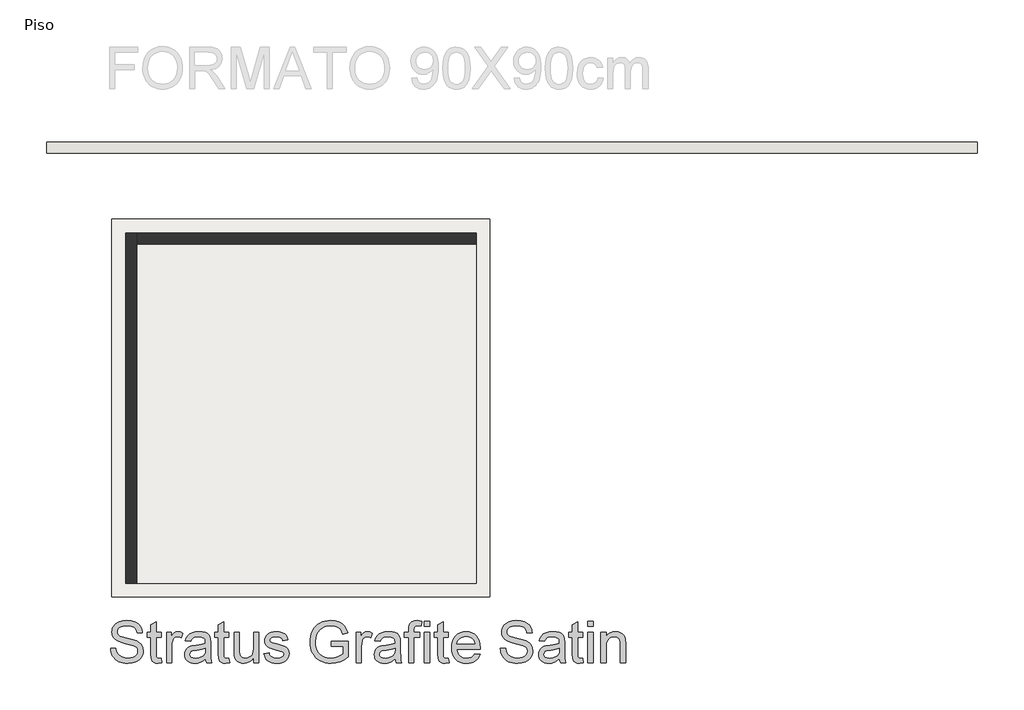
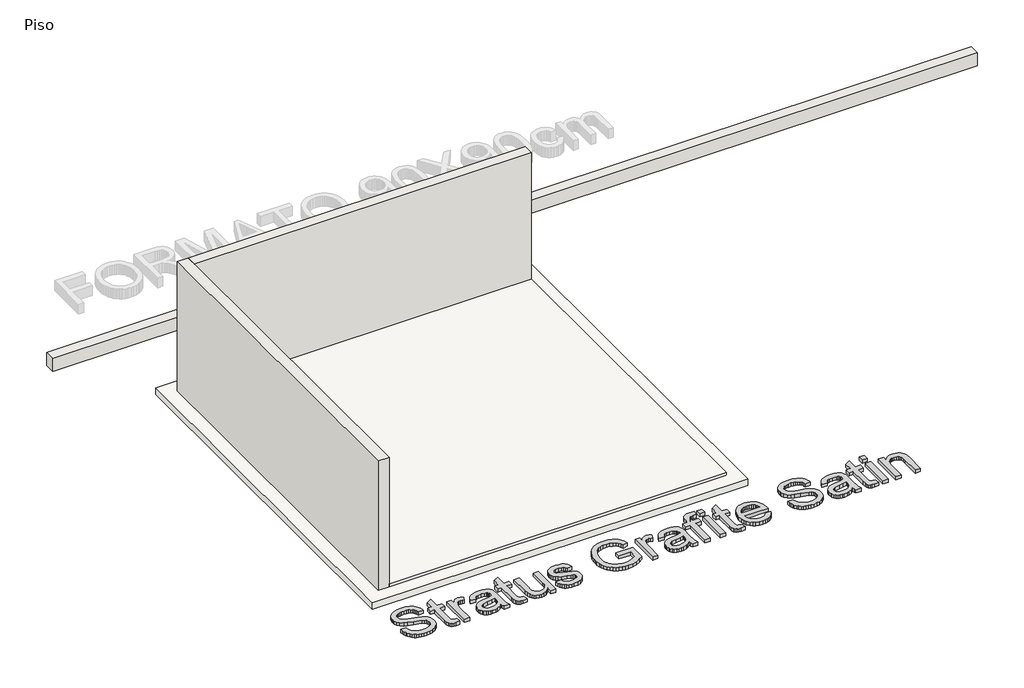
# One storey, part 1 of 2: 3 walls, 2 slabs, 1 proxy.
"""IFC4 building model written with IfcOpenShell, lengths in millimetres."""

import ifcopenshell
import ifcopenshell.guid

model = None  # the IFC model being written
_history = None  # IfcOwnerHistory: only IFC2X3 demands one
_inside = {}  # id of a spatial element -> (the spatial element, [elements in it])
_under = {}  # id of a project, library or spatial element -> (it, [spatial elements below it])
_declared = {}  # id of a project -> (the project, [libraries it declares])
_typed = {}  # id of a type object -> (the type object, [elements of that type])
_made_of = {}  # id of a material, layer set ... -> (it, [elements and type objects made of it])


def new_model(schema):
    """Start an empty IFC model of exactly this schema.

    Asked for "IFC4X3", IfcOpenShell would pick the latest addendum, in which some entities
    have other attributes; the version numbers below select the first issue.
    IFC2X3 requires an IfcOwnerHistory on every rooted entity: one is made here for all.
    """
    global model, _history
    if schema == "IFC4X3":
        model = ifcopenshell.file(schema_version=(4, 3, 0, 0))
    else:
        model = ifcopenshell.file(schema=schema)
    _inside.clear()
    _under.clear()
    _declared.clear()
    _typed.clear()
    _made_of.clear()
    _history = None
    if model.schema == "IFC2X3":
        org = make("IfcOrganization", Name="unknown")
        user = make(
            "IfcPersonAndOrganization",
            ThePerson=make("IfcPerson", FamilyName="unknown"),
            TheOrganization=org,
        )
        app = make(
            "IfcApplication",
            ApplicationDeveloper=org,
            Version="unknown",
            ApplicationFullName="unknown",
            ApplicationIdentifier="unknown",
        )
        _history = make(
            "IfcOwnerHistory",
            OwningUser=user,
            OwningApplication=app,
            ChangeAction="ADDED",
            CreationDate=0,
        )
    return model


def make(cls, **values):
    """One entity of the class cls with the attributes given. An attribute that is None is left unset."""
    return model.create_entity(
        cls, **{name: value for name, value in values.items() if value is not None}
    )


def rooted(cls, **values):
    """An entity with a GlobalId (a new one), such as an element, a storey or a relation."""
    return make(cls, GlobalId=ifcopenshell.guid.new(), OwnerHistory=_history, **values)


def si_unit(unit_type, name, prefix=None):
    """IfcSIUnit, for example si_unit("LENGTHUNIT", "METRE", prefix="MILLI")."""
    return make("IfcSIUnit", UnitType=unit_type, Prefix=prefix, Name=name)


def assignment(units):
    """IfcUnitAssignment: the units of a project."""
    return None if units is None else make("IfcUnitAssignment", Units=units)


def point(xyz):
    """IfcCartesianPoint."""
    return None if xyz is None else make("IfcCartesianPoint", Coordinates=xyz)


def direction(xyz):
    """IfcDirection."""
    return None if xyz is None else make("IfcDirection", DirectionRatios=xyz)


def frame(location, z_axis=None, x_axis=None):
    """IfcAxis2Placement3D, a coordinate frame: its origin and axes. An axis left out is left unset."""
    return make(
        "IfcAxis2Placement3D",
        Location=point(location),
        Axis=direction(z_axis),
        RefDirection=direction(x_axis),
    )


def origin():
    """The frame at (0, 0, 0) with its axes left unset."""
    return frame((0.0, 0.0, 0.0))


def origin_with_axes():
    """The frame at (0, 0, 0) with the z axis (0, 0, 1) and the x axis (1, 0, 0) written out."""
    return frame((0.0, 0.0, 0.0), z_axis=(0.0, 0.0, 1.0), x_axis=(1.0, 0.0, 0.0))


def place(relative_to, where):
    """IfcLocalPlacement: puts the frame where relative to a parent placement (None: the world)."""
    return make(
        "IfcLocalPlacement", PlacementRelTo=relative_to, RelativePlacement=where
    )


def context(
    kind, dimensions, precision=None, world=None, true_north=None, identifier=None
):
    """IfcGeometricRepresentationContext, for example the 3D "Model" context."""
    return make(
        "IfcGeometricRepresentationContext",
        ContextIdentifier=identifier,
        ContextType=kind,
        CoordinateSpaceDimension=dimensions,
        Precision=precision,
        WorldCoordinateSystem=world,
        TrueNorth=true_north,
    )


def project(units=None, contexts=None):
    """IfcProject with its units and contexts."""
    return rooted(
        "IfcProject",
        Name="project",
        RepresentationContexts=contexts,
        UnitsInContext=assignment(units),
    )


def spatial(cls, under=None, at=None, **own):
    """A site, building, storey or space (cls), placed at a placement, below another one or the project."""
    s = rooted(cls, ObjectPlacement=at, **own)
    if under is not None:
        _under.setdefault(under.id(), (under, []))[1].append(s)
    return s


def polyline(points):
    """IfcPolyline through the points."""
    return make("IfcPolyline", Points=[point(p) for p in points])


def outline(outer, holes=None, kind="AREA"):
    """IfcArbitraryClosedProfileDef: a profile drawn as a closed curve; with holes, ...WithVoids."""
    if holes is None:
        return make("IfcArbitraryClosedProfileDef", ProfileType=kind, OuterCurve=outer)
    return make(
        "IfcArbitraryProfileDefWithVoids",
        ProfileType=kind,
        OuterCurve=outer,
        InnerCurves=holes,
    )


def extrude(swept, where, along, depth):
    """IfcExtrudedAreaSolid: the profile swept, set in the frame where, extruded along a direction by depth."""
    return make(
        "IfcExtrudedAreaSolid",
        SweptArea=swept,
        Position=where,
        ExtrudedDirection=direction(along),
        Depth=depth,
    )


def faces_of(points, faces, orient=None, outer=None):
    """IfcFace entities. A face is a list of loops; a loop is a list of indices into points, from 0.

    orient and outer hold one flag for each loop. By default every Orientation is true, the
    first loop of a face is its IfcFaceOuterBound and the others are IfcFaceBound.
    """
    made = []
    for i, loops in enumerate(faces):
        bounds = []
        for j, loop in enumerate(loops):
            is_outer = j == 0 if outer is None else outer[i][j]
            bounds.append(
                make(
                    "IfcFaceOuterBound" if is_outer else "IfcFaceBound",
                    Bound=make("IfcPolyLoop", Polygon=[points[k] for k in loop]),
                    Orientation=True if orient is None else orient[i][j],
                )
            )
        made.append(make("IfcFace", Bounds=bounds))
    return made


def faceted_brep(points, faces, orient=None, outer=None, voids=None):
    """IfcFacetedBrep: a solid bounded by flat faces; with voids (closed shells), ...WithVoids."""
    shared = [point(p) for p in points]
    hull = make("IfcClosedShell", CfsFaces=faces_of(shared, faces, orient, outer))
    if voids is None:
        return make("IfcFacetedBrep", Outer=hull)
    return make(
        "IfcFacetedBrepWithVoids",
        Outer=hull,
        Voids=[
            make(cls, CfsFaces=faces_of(shared, fs, o, b)) for cls, fs, o, b in voids
        ],
    )


def shape(context_of_items, identifier, shape_type, items):
    """IfcShapeRepresentation: the items that make up one representation, for example the "Body"."""
    return make(
        "IfcShapeRepresentation",
        ContextOfItems=context_of_items,
        RepresentationIdentifier=identifier,
        RepresentationType=shape_type,
        Items=items,
    )


def made_of(thing, what):
    """Note that an element or type object is made of a material, layer set ...; save() writes the relation."""
    if what is not None:
        _made_of.setdefault(what.id(), (what, []))[1].append(thing)
    return thing


def element(
    cls,
    number,
    at=None,
    inside=None,
    cuts=None,
    type_object=None,
    material=None,
    context=None,
    identifier="Body",
    shape_type=None,
    held_by="IfcProductDefinitionShape",
    body=None,
    shapes=None,
    **own,
):
    """One element of the class cls, such as IfcWall. Its Tag is "e" and its number.

    at: its placement. inside: the storey or other place that contains it. cuts: it is an
    opening in that element (IfcRelVoidsElement). A single representation is given by context,
    identifier, shape_type and body (its items); several are given by shapes. held_by: the class
    of the entity that holds the representations. save() writes the other relations.
    """
    e = rooted(cls, Tag="e%d" % number, ObjectPlacement=at, **own)
    if body is not None:
        shapes = [shape(context, identifier, shape_type, body)]
    if shapes is not None:
        e.Representation = make(held_by, Representations=shapes)
    if inside is not None:
        _inside.setdefault(inside.id(), (inside, []))[1].append(e)
    if cuts is not None:
        rooted(
            "IfcRelVoidsElement", RelatingBuildingElement=cuts, RelatedOpeningElement=e
        )
    if type_object is not None:
        _typed.setdefault(type_object.id(), (type_object, []))[1].append(e)
    return made_of(e, material)


def aggregate(whole, parts):
    """IfcRelAggregates: a whole, such as a stair, and the parts it consists of."""
    return rooted("IfcRelAggregates", RelatingObject=whole, RelatedObjects=parts)


def save(model, path):
    """Write the relations noted so far, then the file.

    IfcRelAggregates (storeys below a building ...), IfcRelContainedInSpatialStructure (elements
    in a storey), IfcRelDefinesByType, IfcRelAssociatesMaterial and IfcRelDeclares: one each for
    every whole, place, type object, material and project.
    """
    for whole, parts in _under.values():
        aggregate(whole, parts)
    for where, things in _inside.values():
        rooted(
            "IfcRelContainedInSpatialStructure",
            RelatedElements=things,
            RelatingStructure=where,
        )
    for kind, things in _typed.values():
        rooted("IfcRelDefinesByType", RelatedObjects=things, RelatingType=kind)
    for what, things in _made_of.values():
        rooted("IfcRelAssociatesMaterial", RelatedObjects=things, RelatingMaterial=what)
    for by, libraries in _declared.values():
        rooted("IfcRelDeclares", RelatingContext=by, RelatedDefinitions=libraries)
    model.write(path)


model = new_model("IFC4")

# Units and contexts
model_context = context("Model", 3, world=origin())
ifc_project = project(units=[si_unit("LENGTHUNIT", "METRE", prefix="MILLI")], contexts=[model_context])

# Site, building, storey
site = spatial("IfcSite", under=ifc_project)
building = spatial("IfcBuilding", under=site)
storey = spatial("IfcBuildingStorey", under=building, Name="Piso", Elevation=0.0)

# Proxy
placement = place(None, origin())
element("IfcBuildingElementProxy", 1, Name="600mm Arial", ObjectType="600mm Arial", at=placement, inside=storey, context=model_context, shape_type="SweptSolid", body=[
    extrude(outline(polyline([(92616.7349358, -5420.6662735), (92692.0771684, -5420.6662735), (92700.7223953, -5462.4760622), (92716.35738, -5496.0820825), (92740.7479563, -5522.7535271), (92775.6599577, -5543.7595891), (92818.3342691, -5557.389617), (92866.0117757, -5561.9329596), (92907.9871113, -5558.493263), (92944.7385227, -5548.174173), (92974.5185702, -5531.8402124), (92995.5798144, -5510.3559039), (93008.1061963, -5485.6894161), (93012.281657, -5459.8089178), (93009.15466, -5434.590607), (92999.7736691, -5412.7935988), (92980.7173818, -5394.1971639), (92948.5644954, -5378.5805732), (92838.8620844, -5349.8122012), (92766.8491839, -5330.7743079), (92720.771964, -5312.6561197), (92683.2663946, -5287.3090502), (92656.6869204, -5256.5909036), (92640.8496005, -5221.1638675), (92635.5704939, -5181.6901294), (92637.2029703, -5159.2539262), (92642.1003993, -5137.5626841), (92650.2627811, -5116.616403), (92661.6901156, -5096.4150829), (92676.253644, -5077.7818599), (92693.8246078, -5061.5398698), (92714.4030069, -5047.6891127), (92737.9888414, -5036.2295885), (92791.0006369, -5020.833727), (92849.6778151, -5015.7017732), (92913.2478239, -5021.0728503), (92968.8715815, -5037.1860817), (92993.2069755, -5049.1882318), (93014.5625253, -5063.7103735), (93032.938231, -5080.752507), (93048.3340925, -5100.3146321), (93060.6305482, -5121.8265317), (93069.7080364, -5144.7179889), (93075.5665572, -5168.9890035), (93078.2061105, -5194.6395756), (93002.8638779, -5194.6395756), (92997.8238946, -5170.5984872), (92989.0315149, -5149.6843958), (92976.4867388, -5131.8973014), (92960.1895665, -5117.2372038), (92939.8364951, -5105.7776797), (92915.124022, -5097.5923053), (92886.0521474, -5092.6810807), (92852.6208711, -5091.0440058), (92818.122737, -5092.6626866), (92788.6461921, -5097.5187289), (92764.1912365, -5105.6121328), (92744.7578701, -5116.9428982), (92729.9506198, -5130.5637291), (92719.3740124, -5145.5273293), (92713.028048, -5161.8336987), (92710.9127265, -5179.4828374), (92712.4118456, -5194.6671668), (92716.909203, -5208.4351504), (92724.4047987, -5220.7867884), (92734.8986326, -5231.7220807), (92751.4165342, -5242.0779589), (92777.4257912, -5252.5442017), (92857.9183718, -5273.807781), (92940.9861263, -5294.0045025), (92991.2388068, -5311.6260501), (93034.1890298, -5338.9596823), (93050.7943033, -5355.0269285), (93064.1530183, -5372.6944613), (93074.4215245, -5391.8703103), (93081.7561718, -5412.462505), (93087.6238896, -5457.8959314), (93085.9362309, -5481.4633717), (93080.873255, -5504.3410333), (93072.4349617, -5526.5289161), (93060.6213511, -5548.0270202), (93045.6393569, -5568.0030125), (93027.6959126, -5585.6245601), (93006.7910182, -5600.8916629), (92982.9246738, -5613.8043209), (92956.7912565, -5624.0728271), (92929.0851438, -5631.4074744), (92868.9548316, -5637.2751922), (92830.4145941, -5635.6932996), (92795.1393093, -5630.9476219), (92763.1289772, -5623.038159), (92734.3835978, -5611.964911), (92708.7284272, -5597.7094836), (92685.9887213, -5580.253483), (92666.1644803, -5559.5969089), (92649.2557041, -5535.7397616), (92635.6348733, -5509.454593), (92625.6744682, -5481.5139555), (92619.3744891, -5451.917849), (92616.7349358, -5420.6662735)])), origin_with_axes(), (0.0, 0.0, 1.0), 50.0),
    extrude(outline(polyline([(93351.3217037, -5565.0231684), (93360.7394828, -5630.0647051), (93304.3799611, -5637.2751922), (93268.217161, -5634.1481953), (93241.2514108, -5624.7672044), (93222.1951234, -5610.309442), (93209.760712, -5591.9521304), (93202.9181069, -5560.4246434), (93200.6372385, -5506.4563547), (93200.6372385, -5260.5640292), (93144.130564, -5260.5640292), (93144.130564, -5185.2217966), (93200.6372385, -5185.2217966), (93200.6372385, -5077.6531012), (93275.9794711, -5033.3601089), (93275.9794711, -5185.2217966), (93351.3217037, -5185.2217966), (93351.3217037, -5260.5640292), (93275.9794711, -5260.5640292), (93275.9794711, -5504.2490628), (93279.9525967, -5543.0974015), (93292.8284665, -5556.8561881), (93303.6993794, -5560.6637667), (93318.5066298, -5561.9329596), (93351.3217037, -5565.0231684)])), origin_with_axes(), (0.0, 0.0, 1.0), 50.0),
    extrude(outline(polyline([(93426.6639363, -5627.8574132), (93426.6639363, -5185.2217966), (93492.5883899, -5185.2217966), (93492.5883899, -5250.7047917), (93516.942178, -5212.7393698), (93539.3829797, -5190.3721445), (93561.8973578, -5179.4460492), (93586.471875, -5175.8040175), (93623.9958385, -5181.616553), (93662.1084132, -5199.0541596), (93636.9452848, -5266.5972939), (93610.4577811, -5255.009011), (93583.9702775, -5251.1462501), (93561.4742935, -5254.8618582), (93541.3695424, -5266.0086827), (93525.1275523, -5283.7405949), (93514.2198512, -5307.2114662), (93505.0595895, -5349.2971664), (93502.0061689, -5395.2088394), (93502.0061689, -5627.8574132), (93426.6639363, -5627.8574132)])), origin_with_axes(), (0.0, 0.0, 1.0), 50.0),
    extrude(outline(polyline([(93991.7306809, -5571.3507387), (93955.7334277, -5602.2160381), (93918.6693167, -5622.4127596), (93879.6922193, -5633.5595841), (93837.9560069, -5637.2751922), (93804.4097675, -5635.0403091), (93774.9930035, -5628.3356597), (93749.7057148, -5617.1612441), (93728.5479016, -5601.5170623), (93711.8414605, -5582.3963956), (93699.9082883, -5560.7925254), (93692.7483849, -5536.7054518), (93690.3617505, -5510.1351747), (93693.966994, -5478.9019933), (93704.7827247, -5450.5382915), (93721.4661732, -5426.2580798), (93742.6745702, -5407.2753688), (93767.5985754, -5392.927971), (93795.4288483, -5382.5536988), (93860.6175378, -5371.2229333), (93937.6520276, -5359.3035567), (93991.2892225, -5345.3240409), (93991.7306809, -5328.5486219), (93986.5435448, -5294.9242075), (93980.0596246, -5282.471402), (93970.9821364, -5272.9248642), (93955.2919693, -5263.3967205), (93936.1804997, -5256.5909036), (93887.6936527, -5251.1462501), (93842.8120493, -5254.7698877), (93811.4685033, -5265.6408007), (93790.0945594, -5285.7455517), (93775.1217622, -5317.0707036), (93699.7795296, -5307.6529245), (93712.8577345, -5266.4501411), (93732.3738743, -5234.0765255), (93760.148965, -5209.3180672), (93798.0040223, -5190.9607557), (93844.3019714, -5179.593202), (93897.4057374, -5175.8040175), (93948.3389996, -5179.1517436), (93988.7140486, -5189.1949221), (94019.1562837, -5204.296478), (94040.2911043, -5222.8193365), (94054.3074083, -5245.7199907), (94063.3940936, -5273.9549338), (94067.0729135, -5339.8793873), (94067.0729135, -5433.6157197), (94070.8988863, -5564.5081336), (94076.564269, -5596.8633551), (94085.9084717, -5627.8574132), (94010.5662391, -5627.8574132), (93998.4997096, -5601.6642151), (93991.7306809, -5571.3507387)]), holes=[polyline([(93991.7306809, -5420.6662735), (93941.1101184, -5433.2110495), (93870.1824697, -5443.7692628), (93805.3616622, -5455.982945), (93788.4942727, -5464.3338663), (93776.004679, -5475.8485727), (93768.2791571, -5489.6441476), (93765.7039831, -5504.837674), (93771.3141835, -5527.2416875), (93788.1447848, -5545.598999), (93815.8279049, -5557.8494695), (93853.9956619, -5561.9329596), (93894.4626814, -5557.4264052), (93930.2208113, -5543.9067419), (93959.2099126, -5523.9859318), (93979.3698459, -5500.2759372), (93988.3093784, -5475.8485727), (93991.2892225, -5442.0034292), (93991.7306809, -5420.6662735)])]), origin_with_axes(), (0.0, 0.0, 1.0), 50.0),
    extrude(outline(polyline([(94330.7707277, -5565.0231684), (94340.1885068, -5630.0647051), (94283.8289851, -5637.2751922), (94247.666185, -5634.1481953), (94220.7004347, -5624.7672044), (94201.6441474, -5610.309442), (94189.2097359, -5591.9521304), (94182.3671308, -5560.4246434), (94180.0862625, -5506.4563547), (94180.0862625, -5260.5640292), (94123.579588, -5260.5640292), (94123.579588, -5185.2217966), (94180.0862625, -5185.2217966), (94180.0862625, -5077.6531012), (94255.4284951, -5033.3601089), (94255.4284951, -5185.2217966), (94330.7707277, -5185.2217966), (94330.7707277, -5260.5640292), (94255.4284951, -5260.5640292), (94255.4284951, -5504.2490628), (94259.4016206, -5543.0974015), (94272.2774904, -5556.8561881), (94283.1484034, -5560.6637667), (94297.9556537, -5561.9329596), (94330.7707277, -5565.0231684)])), origin_with_axes(), (0.0, 0.0, 1.0), 50.0),
    extrude(outline(polyline([(94688.6463326, -5627.8574132), (94688.6463326, -5551.7794165), (94661.3862767, -5589.1838184), (94629.6380606, -5615.9012483), (94593.401684, -5631.9317062), (94552.6771472, -5637.2751922), (94515.9809182, -5633.5227959), (94481.8230749, -5622.2656068), (94453.1650675, -5605.343035), (94432.9683459, -5584.5944905), (94419.3751062, -5559.3945738), (94410.5275442, -5529.1178856), (94406.1129603, -5459.0731538), (94406.1129603, -5185.2217966), (94481.4551929, -5185.2217966), (94481.4551929, -5423.6093294), (94482.5956271, -5471.286836), (94486.0169296, -5500.42309), (94496.9982072, -5526.046071), (94515.8153713, -5545.5254226), (94541.217623, -5557.8310754), (94571.9541637, -5561.9329596), (94604.456538, -5557.7391049), (94634.8619849, -5545.1575406), (94659.9331429, -5525.3470952), (94676.4326503, -5499.4665968), (94685.592912, -5464.0211666), (94688.6463326, -5415.5159255), (94688.6463326, -5185.2217966), (94763.9885652, -5185.2217966), (94763.9885652, -5627.8574132), (94688.6463326, -5627.8574132)])), origin_with_axes(), (0.0, 0.0, 1.0), 50.0),
    extrude(outline(polyline([(94839.3307978, -5496.0085061), (94914.6730304, -5486.590727), (94919.2255701, -5503.7708162), (94926.5556189, -5518.8171898), (94936.6631767, -5531.7298478), (94949.5482436, -5542.5087903), (94965.2476077, -5551.0068644), (94983.7980573, -5557.0769173), (95029.4522129, -5561.9329596), (95074.5545455, -5557.4815875), (95092.0841226, -5551.9173723), (95106.2659735, -5544.127471), (95125.0279553, -5524.7768781), (95129.7184507, -5513.9427533), (95131.2819492, -5502.3360764), (95129.7092537, -5492.1641392), (95124.9911671, -5483.1326362), (95106.1188207, -5468.4909328), (95077.9022717, -5458.926001), (95028.5692961, -5447.0066243), (94959.8121512, -5427.1226025), (94915.1144888, -5410.1448484), (94886.4012991, -5391.6219899), (94865.5975723, -5367.102655), (94852.9608257, -5338.1503419), (94848.7485769, -5306.3285494), (94852.1330912, -5277.137113), (94862.2866343, -5250.1897569), (94878.2895011, -5226.5533387), (94899.2219866, -5207.2947163), (94920.0257135, -5195.1730045), (94947.1202224, -5185.0010674), (94978.4453743, -5178.1032799), (95011.94103, -5175.8040175), (95060.9796999, -5179.5012315), (95103.6172231, -5190.5928737), (95137.9038251, -5207.9936921), (95161.8897312, -5230.6184348), (95177.7822334, -5260.1409649), (95187.7886236, -5298.2351455), (95112.446391, -5307.6529245), (95102.9366415, -5283.94293), (95084.1194774, -5266.0822591), (95055.8109579, -5254.8802523), (95017.8271419, -5251.1462501), (94974.5642192, -5254.7147054), (94945.7222708, -5265.4200715), (94929.4986748, -5280.8711153), (94924.0908095, -5298.6766039), (94926.3348897, -5310.2648867), (94933.0671302, -5320.6023708), (94944.5818366, -5329.8362089), (94961.1733146, -5337.230637), (95026.0676986, -5353.270292), (95136.6530263, -5388.7341163), (95165.8628567, -5405.6934763), (95188.0093528, -5428.9068302), (95201.9704746, -5458.4477544), (95206.6241818, -5494.3898253), (95201.1611342, -5531.5459068), (95184.7719913, -5566.4946964), (95158.0821525, -5596.4954731), (95121.7170173, -5618.8075161), (95077.7919071, -5632.6582732), (95028.4221433, -5637.2751922), (94987.8723504, -5635.0495062), (94952.4545113, -5628.3724479), (94922.1686261, -5617.2440176), (94897.0146947, -5601.6642151), (94876.4684852, -5581.7066169), (94860.0057659, -5557.4447993), (94847.6265368, -5528.8787623), (94839.3307978, -5496.0085061)])), origin_with_axes(), (0.0, 0.0, 1.0), 50.0),
    extrude(outline(polyline([(95818.7798218, -5392.4129362), (95818.7798218, -5317.0707036), (96063.6420778, -5317.0707036), (96063.6420778, -5542.3616375), (96004.137165, -5583.7483619), (95942.7560541, -5613.4364389), (95879.6458979, -5631.3155039), (95814.953849, -5637.2751922), (95771.6771308, -5634.9069519), (95730.4329606, -5627.8022309), (95691.2213385, -5615.9610291), (95654.0422643, -5599.3833467), (95620.0959532, -5578.317504), (95590.5826202, -5553.0118212), (95565.5022651, -5523.4662985), (95544.8548882, -5489.6809358), (95528.7278612, -5452.7363864), (95517.2085562, -5413.7133038), (95510.2969732, -5372.6116878), (95507.9931122, -5329.4315387), (95510.2877762, -5286.246791), (95517.171768, -5244.5427683), (95528.6450878, -5204.3194706), (95544.7077354, -5165.576898), (95565.0746023, -5130.0165047), (95589.4605801, -5099.3397448), (95617.8656686, -5073.5466184), (95650.289868, -5052.6371255), (95686.0296038, -5036.4779089), (95724.3813018, -5024.9356113), (95765.344962, -5018.0102327), (95808.9205843, -5015.7017732), (95870.9822769, -5021.0544562), (95926.7899756, -5037.1125053), (95951.7093822, -5048.866335), (95973.7869004, -5062.7170922), (95993.0225303, -5078.6647767), (96009.4162717, -5096.7093885), (96035.7750166, -5140.7264692), (96054.9600627, -5196.4054092), (95985.503942, -5215.9767314), (95969.9977159, -5176.26387), (95951.1437636, -5146.2998815), (95926.2013644, -5123.711927), (95892.4297972, -5106.1271676), (95852.1651128, -5094.8147962), (95807.7433619, -5091.0440058), (95755.7432419, -5095.1091018), (95711.2847028, -5107.30439), (95674.5332915, -5126.1031599), (95645.6545548, -5149.9787014), (95623.4896646, -5177.6986098), (95606.8797926, -5208.0304803), (95589.2214568, -5264.9050367), (95583.3353449, -5326.3413299), (95585.105777, -5363.9618624), (95590.4170733, -5398.3910187), (95599.2692338, -5429.6287986), (95611.6622585, -5457.6752022), (95627.435199, -5482.4244634), (95646.427107, -5503.7708162), (95668.6379825, -5521.7142605), (95694.0678254, -5536.2547964), (95721.5256178, -5547.4889928), (95749.8203418, -5555.5134188), (95778.9519973, -5560.3280744), (95808.9205843, -5561.9329596), (95861.1046453, -5557.0953114), (95912.0011194, -5542.5823667), (95956.2021411, -5522.5879802), (95988.2998452, -5501.3060068), (95988.2998452, -5392.4129362), (95818.7798218, -5392.4129362)])), origin_with_axes(), (0.0, 0.0, 1.0), 50.0),
    extrude(outline(polyline([(96176.6554267, -5627.8574132), (96176.6554267, -5185.2217966), (96242.5798802, -5185.2217966), (96242.5798802, -5250.7047917), (96266.9336683, -5212.7393698), (96289.37447, -5190.3721445), (96311.8888481, -5179.4460492), (96336.4633654, -5175.8040175), (96373.9873289, -5181.616553), (96412.0999036, -5199.0541596), (96386.9367751, -5266.5972939), (96360.4492715, -5255.009011), (96333.9617678, -5251.1462501), (96311.4657838, -5254.8618582), (96291.3610328, -5266.0086827), (96275.1190427, -5283.7405949), (96264.2113415, -5307.2114662), (96255.0510799, -5349.2971664), (96251.9976593, -5395.2088394), (96251.9976593, -5627.8574132), (96176.6554267, -5627.8574132)])), origin_with_axes(), (0.0, 0.0, 1.0), 50.0),
    extrude(outline(polyline([(96741.7221713, -5571.3507387), (96705.724918, -5602.2160381), (96668.660807, -5622.4127596), (96629.6837096, -5633.5595841), (96587.9474973, -5637.2751922), (96554.4012579, -5635.0403091), (96524.9844938, -5628.3356597), (96499.6972052, -5617.1612441), (96478.5393919, -5601.5170623), (96461.8329508, -5582.3963956), (96449.8997786, -5560.7925254), (96442.7398753, -5536.7054518), (96440.3532408, -5510.1351747), (96443.9584844, -5478.9019933), (96454.774215, -5450.5382915), (96471.4576635, -5426.2580798), (96492.6660605, -5407.2753688), (96517.5900657, -5392.927971), (96545.4203386, -5382.5536988), (96610.6090282, -5371.2229333), (96687.643518, -5359.3035567), (96741.2807129, -5345.3240409), (96741.7221713, -5328.5486219), (96736.5350351, -5294.9242075), (96730.051115, -5282.471402), (96720.9736267, -5272.9248642), (96705.2834596, -5263.3967205), (96686.17199, -5256.5909036), (96637.685143, -5251.1462501), (96592.8035396, -5254.7698877), (96561.4599936, -5265.6408007), (96540.0860497, -5285.7455517), (96525.1132525, -5317.0707036), (96449.7710199, -5307.6529245), (96462.8492248, -5266.4501411), (96482.3653647, -5234.0765255), (96510.1404553, -5209.3180672), (96547.9955126, -5190.9607557), (96594.2934617, -5179.593202), (96647.3972277, -5175.8040175), (96698.3304899, -5179.1517436), (96738.7055389, -5189.1949221), (96769.147774, -5204.296478), (96790.2825946, -5222.8193365), (96804.2988987, -5245.7199907), (96813.3855839, -5273.9549338), (96817.0644039, -5339.8793873), (96817.0644039, -5433.6157197), (96820.8903766, -5564.5081336), (96826.5557594, -5596.8633551), (96835.899962, -5627.8574132), (96760.5577294, -5627.8574132), (96748.4912, -5601.6642151), (96741.7221713, -5571.3507387)]), holes=[polyline([(96741.7221713, -5420.6662735), (96691.1016087, -5433.2110495), (96620.1739601, -5443.7692628), (96555.3531525, -5455.982945), (96538.485763, -5464.3338663), (96525.9961693, -5475.8485727), (96518.2706474, -5489.6441476), (96515.6954734, -5504.837674), (96521.3056739, -5527.2416875), (96538.1362751, -5545.598999), (96565.8193953, -5557.8494695), (96603.9871523, -5561.9329596), (96644.4541717, -5557.4264052), (96680.2123017, -5543.9067419), (96709.2014029, -5523.9859318), (96729.3613362, -5500.2759372), (96738.3008687, -5475.8485727), (96741.2807129, -5442.0034292), (96741.7221713, -5420.6662735)])]), origin_with_axes(), (0.0, 0.0, 1.0), 50.0),
    extrude(outline(polyline([(96939.4955319, -5627.8574132), (96939.4955319, -5260.5640292), (96873.5710783, -5260.5640292), (96873.5710783, -5185.2217966), (96939.4955319, -5185.2217966), (96939.4955319, -5140.6344987), (96941.4820947, -5103.7359346), (96947.441783, -5077.800254), (96962.5985212, -5052.7474901), (96985.9958161, -5032.9186506), (97018.7373136, -5020.0059925), (97061.9266599, -5015.7017732), (97094.6313692, -5017.7619123), (97130.6470166, -5023.9423299), (97119.6105567, -5094.5756729), (97076.2004813, -5091.0440058), (97047.560868, -5094.1710027), (97028.7437039, -5103.5519936), (97018.3142493, -5121.4678468), (97014.8377645, -5150.1994306), (97014.8377645, -5185.2217966), (97099.5977762, -5185.2217966), (97099.5977762, -5260.5640292), (97014.8377645, -5260.5640292), (97014.8377645, -5627.8574132), (96939.4955319, -5627.8574132)])), origin_with_axes(), (0.0, 0.0, 1.0), 50.0),
    extrude(outline(polyline([(97165.5222297, -5100.4617849), (97165.5222297, -5025.1195523), (97240.8644623, -5025.1195523), (97240.8644623, -5100.4617849), (97165.5222297, -5100.4617849)])), origin_with_axes(), (0.0, 0.0, 1.0), 50.0),
    extrude(outline(polyline([(97165.5222297, -5627.8574132), (97165.5222297, -5185.2217966), (97240.8644623, -5185.2217966), (97240.8644623, -5627.8574132), (97165.5222297, -5627.8574132)])), origin_with_axes(), (0.0, 0.0, 1.0), 50.0),
    extrude(outline(polyline([(97513.9800555, -5565.0231684), (97523.3978346, -5630.0647051), (97467.038313, -5637.2751922), (97430.8755128, -5634.1481953), (97403.9097626, -5624.7672044), (97384.8534752, -5610.309442), (97372.4190638, -5591.9521304), (97365.5764587, -5560.4246434), (97363.2955903, -5506.4563547), (97363.2955903, -5260.5640292), (97306.7889159, -5260.5640292), (97306.7889159, -5185.2217966), (97363.2955903, -5185.2217966), (97363.2955903, -5077.6531012), (97438.6378229, -5033.3601089), (97438.6378229, -5185.2217966), (97513.9800555, -5185.2217966), (97513.9800555, -5260.5640292), (97438.6378229, -5260.5640292), (97438.6378229, -5504.2490628), (97442.6109485, -5543.0974015), (97455.4868183, -5556.8561881), (97466.3577313, -5560.6637667), (97481.1649816, -5561.9329596), (97513.9800555, -5565.0231684)])), origin_with_axes(), (0.0, 0.0, 1.0), 50.0),
    extrude(outline(polyline([(97899.2260809, -5496.0085061), (97973.0967855, -5505.4262852), (97961.7706186, -5535.0131946), (97946.4805232, -5561.086831), (97927.2264993, -5583.6471944), (97904.0085468, -5602.6942847), (97877.0657892, -5617.8234317), (97846.6373497, -5628.6299653), (97812.7232283, -5635.1138855), (97775.3234249, -5637.2751922), (97728.5748204, -5633.5457885), (97686.9213815, -5622.3575773), (97650.3631082, -5603.7105587), (97618.9000006, -5577.6047326), (97593.5989164, -5544.766666), (97575.5267133, -5505.9229258), (97564.6833915, -5461.0735121), (97561.0689509, -5410.2184248), (97564.7201797, -5357.6388906), (97575.6738661, -5311.2949563), (97593.9300101, -5271.1866218), (97619.4886118, -5237.3138871), (97650.868946, -5210.4033191), (97686.5902877, -5191.1814849), (97726.652637, -5179.6483843), (97771.0559938, -5175.8040175), (97814.0292093, -5179.6391873), (97852.8913436, -5191.1446967), (97887.6423966, -5210.3205457), (97918.2823682, -5237.1667343), (97943.2937454, -5270.9658926), (97961.1590148, -5311.0006507), (97971.8781764, -5357.2710086), (97975.4512303, -5409.7769664), (97975.0097719, -5430.0840525), (97636.4111835, -5430.0840525), (97640.7751837, -5460.1492086), (97649.4526003, -5486.4803624), (97662.4434332, -5509.077514), (97679.7476826, -5527.9406633), (97700.4088551, -5542.8122929), (97723.4704577, -5553.4348855), (97748.9324903, -5559.8084411), (97776.7949529, -5561.9329596), (97816.8940904, -5557.9966223), (97850.6656575, -5546.1876102), (97878.1096544, -5525.7701595), (97899.2260809, -5496.0085061)]), holes=[polyline([(97636.4111835, -5354.7418199), (97900.1089977, -5354.7418199), (97889.9186664, -5314.9369881), (97881.1538779, -5299.2836092), (97869.9426741, -5286.4629216), (97849.3964646, -5271.0118778), (97826.0175639, -5259.975418), (97799.8059717, -5253.3535421), (97770.7616882, -5251.1462501), (97744.269586, -5252.9074851), (97719.9755787, -5258.1911903), (97697.8796664, -5266.9973656), (97677.981849, -5279.3260109), (97661.2846049, -5294.6069093), (97648.7904127, -5312.2698436), (97640.4992722, -5332.3148138), (97636.4111835, -5354.7418199)])]), origin_with_axes(), (0.0, 0.0, 1.0), 50.0),
    extrude(outline(polyline([(98267.4023817, -5420.6662735), (98342.7446143, -5420.6662735), (98351.3898412, -5462.4760622), (98367.024826, -5496.0820825), (98391.4154022, -5522.7535271), (98426.3274036, -5543.7595891), (98469.001715, -5557.389617), (98516.6792216, -5561.9329596), (98558.6545573, -5558.493263), (98595.4059686, -5548.174173), (98625.1860161, -5531.8402124), (98646.2472603, -5510.3559039), (98658.7736422, -5485.6894161), (98662.9491029, -5459.8089178), (98659.8221059, -5434.590607), (98650.441115, -5412.7935988), (98631.3848277, -5394.1971639), (98599.2319413, -5378.5805732), (98489.5295304, -5349.8122012), (98417.5166298, -5330.7743079), (98371.4394099, -5312.6561197), (98333.9338405, -5287.3090502), (98307.3543663, -5256.5909036), (98291.5170465, -5221.1638675), (98286.2379398, -5181.6901294), (98287.8704162, -5159.2539262), (98292.7678452, -5137.5626841), (98300.930227, -5116.616403), (98312.3575615, -5096.4150829), (98326.92109, -5077.7818599), (98344.4920538, -5061.5398698), (98365.0704529, -5047.6891127), (98388.6562873, -5036.2295885), (98441.6680828, -5020.833727), (98500.345261, -5015.7017732), (98563.9152698, -5021.0728503), (98619.5390275, -5037.1860817), (98643.8744214, -5049.1882318), (98665.2299713, -5063.7103735), (98683.6056769, -5080.752507), (98699.0015384, -5100.3146321), (98711.2979941, -5121.8265317), (98720.3754823, -5144.7179889), (98726.2340031, -5168.9890035), (98728.8735564, -5194.6395756), (98653.5313238, -5194.6395756), (98648.4913405, -5170.5984872), (98639.6989608, -5149.6843958), (98627.1541848, -5131.8973014), (98610.8570124, -5117.2372038), (98590.503941, -5105.7776797), (98565.791468, -5097.5923053), (98536.7195933, -5092.6810807), (98503.288317, -5091.0440058), (98468.7901829, -5092.6626866), (98439.313638, -5097.5187289), (98414.8586824, -5105.6121328), (98395.425316, -5116.9428982), (98380.6180657, -5130.5637291), (98370.0414583, -5145.5273293), (98363.6954939, -5161.8336987), (98361.5801724, -5179.4828374), (98363.0792916, -5194.6671668), (98367.576649, -5208.4351504), (98375.0722446, -5220.7867884), (98385.5660785, -5231.7220807), (98402.0839801, -5242.0779589), (98428.0932372, -5252.5442017), (98508.5858177, -5273.807781), (98591.6535722, -5294.0045025), (98641.9062528, -5311.6260501), (98684.8564757, -5338.9596823), (98701.4617493, -5355.0269285), (98714.8204642, -5372.6944613), (98725.0889704, -5391.8703103), (98732.4236177, -5412.462505), (98738.2913355, -5457.8959314), (98736.6036768, -5481.4633717), (98731.5407009, -5504.3410333), (98723.1024076, -5526.5289161), (98711.288797, -5548.0270202), (98696.3068028, -5568.0030125), (98678.3633585, -5585.6245601), (98657.4584641, -5600.8916629), (98633.5921197, -5613.8043209), (98607.4587024, -5624.0728271), (98579.7525897, -5631.4074744), (98519.6222776, -5637.2751922), (98481.08204, -5635.6932996), (98445.8067552, -5630.9476219), (98413.7964231, -5623.038159), (98385.0510437, -5611.964911), (98359.3958731, -5597.7094836), (98336.6561673, -5580.253483), (98316.8319262, -5559.5969089), (98299.92315, -5535.7397616), (98286.3023192, -5509.454593), (98276.3419142, -5481.5139555), (98270.041935, -5451.917849), (98267.4023817, -5420.6662735)])), origin_with_axes(), (0.0, 0.0, 1.0), 50.0),
    extrude(outline(polyline([(99124.4202776, -5571.3507387), (99088.4230244, -5602.2160381), (99051.3589134, -5622.4127596), (99012.381816, -5633.5595841), (98970.6456036, -5637.2751922), (98937.0993642, -5635.0403091), (98907.6826002, -5628.3356597), (98882.3953115, -5617.1612441), (98861.2374983, -5601.5170623), (98844.5310572, -5582.3963956), (98832.597885, -5560.7925254), (98825.4379816, -5536.7054518), (98823.0513472, -5510.1351747), (98826.6565907, -5478.9019933), (98837.4723214, -5450.5382915), (98854.1557699, -5426.2580798), (98875.3641669, -5407.2753688), (98900.2881721, -5392.927971), (98928.118445, -5382.5536988), (98993.3071346, -5371.2229333), (99070.3416243, -5359.3035567), (99123.9788192, -5345.3240409), (99124.4202776, -5328.5486219), (99119.2331415, -5294.9242075), (99112.7492213, -5282.471402), (99103.6717331, -5272.9248642), (99087.981566, -5263.3967205), (99068.8700964, -5256.5909036), (99020.3832494, -5251.1462501), (98975.501646, -5254.7698877), (98944.1581, -5265.6408007), (98922.7841561, -5285.7455517), (98907.8113589, -5317.0707036), (98832.4691263, -5307.6529245), (98845.5473312, -5266.4501411), (98865.063471, -5234.0765255), (98892.8385617, -5209.3180672), (98930.693619, -5190.9607557), (98976.9915681, -5179.593202), (99030.0953341, -5175.8040175), (99081.0285963, -5179.1517436), (99121.4036453, -5189.1949221), (99151.8458804, -5204.296478), (99172.980701, -5222.8193365), (99186.997005, -5245.7199907), (99196.0836903, -5273.9549338), (99199.7625102, -5339.8793873), (99199.7625102, -5433.6157197), (99203.588483, -5564.5081336), (99209.2538657, -5596.8633551), (99218.5980684, -5627.8574132), (99143.2558358, -5627.8574132), (99131.1893063, -5601.6642151), (99124.4202776, -5571.3507387)]), holes=[polyline([(99124.4202776, -5420.6662735), (99073.7997151, -5433.2110495), (99002.8720664, -5443.7692628), (98938.0512589, -5455.982945), (98921.1838694, -5464.3338663), (98908.6942757, -5475.8485727), (98900.9687538, -5489.6441476), (98898.3935798, -5504.837674), (98904.0037802, -5527.2416875), (98920.8343815, -5545.598999), (98948.5175016, -5557.8494695), (98986.6852586, -5561.9329596), (99027.1522781, -5557.4264052), (99062.910408, -5543.9067419), (99091.8995093, -5523.9859318), (99112.0594426, -5500.2759372), (99120.9989751, -5475.8485727), (99123.9788192, -5442.0034292), (99124.4202776, -5420.6662735)])]), origin_with_axes(), (0.0, 0.0, 1.0), 50.0),
    extrude(outline(polyline([(99463.4603244, -5565.0231684), (99472.8781035, -5630.0647051), (99416.5185818, -5637.2751922), (99380.3557817, -5634.1481953), (99353.3900314, -5624.7672044), (99334.3337441, -5610.309442), (99321.8993326, -5591.9521304), (99315.0567275, -5560.4246434), (99312.7758592, -5506.4563547), (99312.7758592, -5260.5640292), (99256.2691847, -5260.5640292), (99256.2691847, -5185.2217966), (99312.7758592, -5185.2217966), (99312.7758592, -5077.6531012), (99388.1180918, -5033.3601089), (99388.1180918, -5185.2217966), (99463.4603244, -5185.2217966), (99463.4603244, -5260.5640292), (99388.1180918, -5260.5640292), (99388.1180918, -5504.2490628), (99392.0912173, -5543.0974015), (99404.9670872, -5556.8561881), (99415.8380001, -5560.6637667), (99430.6452504, -5561.9329596), (99463.4603244, -5565.0231684)])), origin_with_axes(), (0.0, 0.0, 1.0), 50.0),
    extrude(outline(polyline([(99538.802557, -5100.4617849), (99538.802557, -5025.1195523), (99614.1447896, -5025.1195523), (99614.1447896, -5100.4617849), (99538.802557, -5100.4617849)])), origin_with_axes(), (0.0, 0.0, 1.0), 50.0),
    extrude(outline(polyline([(99538.802557, -5627.8574132), (99538.802557, -5185.2217966), (99614.1447896, -5185.2217966), (99614.1447896, -5627.8574132), (99538.802557, -5627.8574132)])), origin_with_axes(), (0.0, 0.0, 1.0), 50.0),
    extrude(outline(polyline([(99727.1581385, -5627.8574132), (99727.1581385, -5185.2217966), (99802.5003711, -5185.2217966), (99802.5003711, -5247.0259717), (99828.6751751, -5215.8663668), (99860.1106916, -5193.609506), (99896.8069206, -5180.2553896), (99938.7638622, -5175.8040175), (99975.9015496, -5179.3908669), (100009.91224, -5190.1514153), (100038.2759419, -5206.7428933), (100058.4726634, -5227.8225316), (100072.1762677, -5253.335148), (100081.0606179, -5283.2255601), (100085.0337434, -5356.0661951), (100085.0337434, -5627.8574132), (100009.6915108, -5627.8574132), (100009.6915108, -5366.2197382), (100007.5210071, -5327.2610349), (100001.0094957, -5299.5595207), (99988.9981486, -5279.712287), (99970.3281373, -5264.3164255), (99946.3974136, -5254.4387939), (99918.6039288, -5251.1462501), (99895.7262672, -5252.9948571), (99874.4764835, -5258.5406782), (99854.8545776, -5267.7837133), (99836.8605495, -5280.7239625), (99821.8279715, -5298.8329537), (99811.0904157, -5323.5822149), (99804.6478823, -5354.9717462), (99802.5003711, -5393.0015474), (99802.5003711, -5627.8574132), (99727.1581385, -5627.8574132)])), origin_with_axes(), (0.0, 0.0, 1.0), 50.0),
])

# Slabs
element("IfcSlab", 2, ObjectType="5cm - Porcelanato Stratus Grafite Satin  - Acetinado 90X90", at=placement, inside=storey, context=model_context, shape_type="SweptSolid", body=[
    extrude(outline(polyline([(97914.6784999, 448.2762181), (97914.6784999, -4472.3237819), (92994.0784999, -4472.3237819), (92994.0784999, 448.2762181), (97914.6784999, 448.2762181)])), origin_with_axes(), (0.0, 0.0, 1.0), 50.0),
])
element("IfcSlab", 3, ObjectType="CO02 - Concreto Estrutural Simples", at=placement, inside=storey, context=model_context, shape_type="SweptSolid", body=[
    extrude(outline(polyline([(98114.6784999, 807.0762181), (98114.6784999, -4672.3237819), (92635.2784999, -4672.3237819), (92635.2784999, 807.0762181), (98114.6784999, 807.0762181)])), frame((0.0, 0.0, -100.0), z_axis=(0.0, 0.0, 1.0), x_axis=(1.0, 0.0, 0.0)), (0.0, 0.0, 1.0), 100.0),
])

# Walls
element("IfcWall", 4, ObjectType="CO01 - Bloco de Concreto 14cm / Pintura Branca Simples", at=placement, inside=storey, context=model_context, shape_type="SweptSolid", body=[
    extrude(outline(polyline([(105186.699165, 1765.7486968), (91686.699165, 1765.7486968), (91686.699165, 1924.5486968), (105186.699165, 1924.5486968), (105186.699165, 1765.7486968)])), origin_with_axes(), (0.0, 0.0, 1.0), 200.0),
])
element("IfcWall", 5, ObjectType="CO01 - Bloco de Concreto 14cm / Pintura Branca Simples", at=placement, inside=storey, context=model_context, shape_type="Brep", body=[
    faceted_brep([(92994.0784999, -4472.3237819, 0.0), (92994.0784999, 448.2762181, 0.0), (92994.0784999, 607.0762181, 0.0), (92994.0784999, 607.0762181, 2000.0), (92994.0784999, 448.2762181, 2000.0), (92994.0784999, -4472.3237819, 2000.0), (92835.2784999, -4472.3237819, 0.0), (92835.2784999, -4472.3237819, 2000.0), (92835.2784999, 607.0762181, 2000.0), (92835.2784999, 607.0762181, 0.0)], [[[0, 1, 2, 3, 4, 5]], [[6, 7, 8, 9]], [[2, 1, 0, 6, 9]], [[5, 4, 3, 8, 7]], [[0, 5, 7, 6]], [[3, 2, 9, 8]]]),
])
element("IfcWall", 6, ObjectType="CO01 - Bloco de Concreto 14cm / Pintura Branca Simples", at=placement, inside=storey, context=model_context, shape_type="SweptSolid", body=[
    extrude(outline(polyline([(97914.6784999, 448.2762181), (92994.0784999, 448.2762181), (92994.0784999, 607.0762181), (97914.6784999, 607.0762181), (97914.6784999, 448.2762181)])), origin_with_axes(), (0.0, 0.0, 1.0), 2000.0),
])

save(model, "model.ifc")
